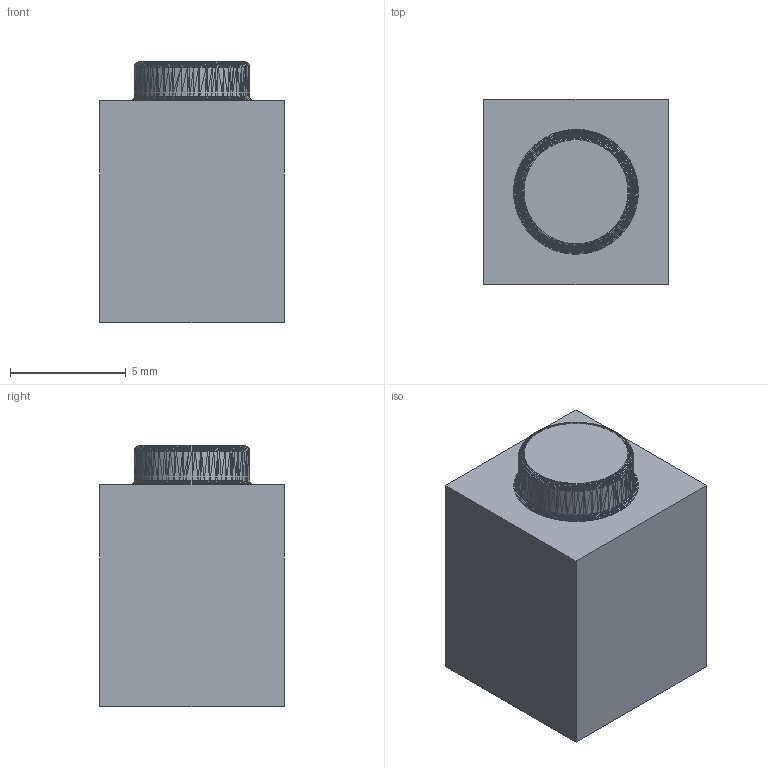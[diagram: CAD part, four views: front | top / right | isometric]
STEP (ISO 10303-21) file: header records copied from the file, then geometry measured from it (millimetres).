
FILE_DESCRIPTION(('Open CASCADE Model'),'2;1');
FILE_NAME('Open CASCADE Shape Model','2026-10-27T16:36:27',('Author'),( 'Open CASCADE'),'Open CASCADE STEP processor 7.9','Open CASCADE 7.9' ,'Unknown');
FILE_SCHEMA(('AUTOMOTIVE_DESIGN { 1 0 10303 214 1 1 1 1 }'));
Products named in the file (1): Open CASCADE STEP translator 7.9 1
Bounding box: 8 x 8 x 11.3 mm (x, y, z)
Volume: 463.2 mm3; surface area: 610.8 mm2
Topology: 1 solids, 1 shells, 2672 faces, 4094 edges, 1426 vertices
Faces by surface type: plane 2672
Entity records: 106130 total; most frequent: DIRECTION 17628, CARTESIAN_POINT 16381, LINE 12282, VECTOR 12282, ORIENTED_EDGE 8188, PCURVE 8188, DEFINITIONAL_REPRESENTATION 8188, EDGE_CURVE 4094
